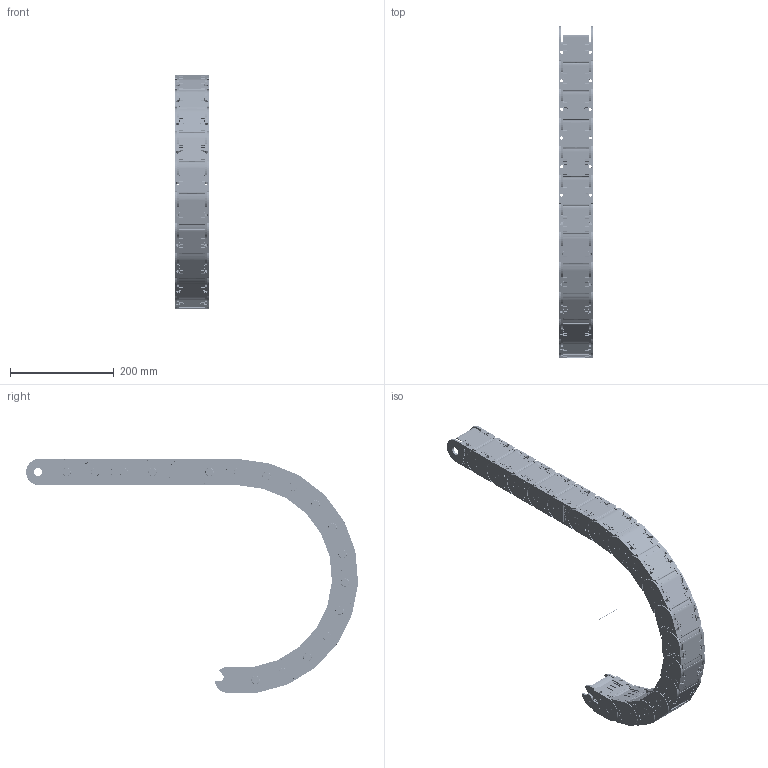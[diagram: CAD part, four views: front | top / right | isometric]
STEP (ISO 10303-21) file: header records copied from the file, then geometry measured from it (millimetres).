
FILE_DESCRIPTION((''),'2;1');
FILE_NAME('C:\Uebbing\PARAMETERKETTEN\KOLIBRI\Kol_50_065_5\Kol 50_065_5_R200.stp','2012-03-05T14:36:02',('Uebbing'),(''),'Autodesk Inventor 10','Autodesk Inventor 10','');
FILE_SCHEMA(('AUTOMOTIVE_DESIGN { 1 0 10303 214 1 1 1 1 }'));
Length unit declared in the file: millimetre
Products named in the file (6): KOLIBRI 50_065_5_PARAMETRISCH; Achse; Kol 50_065_5; Kol_50_065_5_Klappdeckel; Kol_50_065_5; Stecksteg PZG 50
Assembly tree (23 placements, depth 3):
  KOLIBRI 50_065_5_PARAMETRISCH
    Achse
    Kol 50_065_5  x19
      Kol_50_065_5_Klappdeckel
      Kol_50_065_5
      Stecksteg PZG 50
Bounding box: 65 x 638.41 x 450 mm (x, y, z)
Volume: 1062405.7 mm3; surface area: 756849.6 mm2
Topology: 58 solids, 58 shells, 12904 faces, 35059 edges, 22651 vertices
Faces by surface type: plane 6633, cylinder 3117, bspline 2812, sphere 190, cone 114, torus 38
Full cylindrical faces by diameter (mm): 1 x1, 2.011 x19, 3.531 x19, 4 x114, 6 x19, 8 x38, 16 x38
Entity records: 22486 total; most frequent: CARTESIAN_POINT 5330, ORIENTED_EDGE 3608, DIRECTION 3363, EDGE_CURVE 1804, VECTOR 1331, LINE 1331, VERTEX_POINT 1184, AXIS2_PLACEMENT_3D 1016
